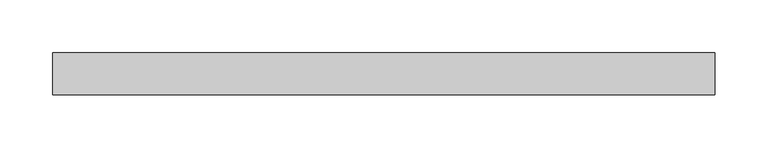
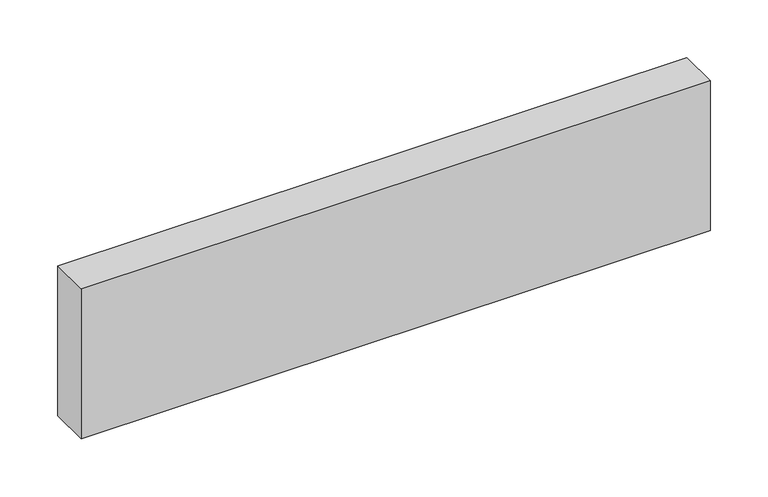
"""IFC4 building model written with IfcOpenShell, lengths in millimetres: plate geometry, Panneau système vide : Epaiss. 4cm."""

import ifcopenshell
import ifcopenshell.guid

model = None  # the IFC model being written
_history = None  # IfcOwnerHistory: only IFC2X3 demands one
_inside = {}  # id of a spatial element -> (the spatial element, [elements in it])
_under = {}  # id of a project, library or spatial element -> (it, [spatial elements below it])
_declared = {}  # id of a project -> (the project, [libraries it declares])
_typed = {}  # id of a type object -> (the type object, [elements of that type])
_made_of = {}  # id of a material, layer set ... -> (it, [elements and type objects made of it])


def new_model(schema):
    """Start an empty IFC model of exactly this schema.

    Asked for "IFC4X3", IfcOpenShell would pick the latest addendum, in which some entities
    have other attributes; the version numbers below select the first issue.
    IFC2X3 requires an IfcOwnerHistory on every rooted entity: one is made here for all.
    """
    global model, _history
    if schema == "IFC4X3":
        model = ifcopenshell.file(schema_version=(4, 3, 0, 0))
    else:
        model = ifcopenshell.file(schema=schema)
    _inside.clear()
    _under.clear()
    _declared.clear()
    _typed.clear()
    _made_of.clear()
    _history = None
    if model.schema == "IFC2X3":
        org = make("IfcOrganization", Name="unknown")
        user = make(
            "IfcPersonAndOrganization",
            ThePerson=make("IfcPerson", FamilyName="unknown"),
            TheOrganization=org,
        )
        app = make(
            "IfcApplication",
            ApplicationDeveloper=org,
            Version="unknown",
            ApplicationFullName="unknown",
            ApplicationIdentifier="unknown",
        )
        _history = make(
            "IfcOwnerHistory",
            OwningUser=user,
            OwningApplication=app,
            ChangeAction="ADDED",
            CreationDate=0,
        )
    return model


def make(cls, **values):
    """One entity of the class cls with the attributes given. An attribute that is None is left unset."""
    return model.create_entity(
        cls, **{name: value for name, value in values.items() if value is not None}
    )


def rooted(cls, **values):
    """An entity with a GlobalId (a new one), such as an element, a storey or a relation."""
    return make(cls, GlobalId=ifcopenshell.guid.new(), OwnerHistory=_history, **values)


def si_unit(unit_type, name, prefix=None):
    """IfcSIUnit, for example si_unit("LENGTHUNIT", "METRE", prefix="MILLI")."""
    return make("IfcSIUnit", UnitType=unit_type, Prefix=prefix, Name=name)


def assignment(units):
    """IfcUnitAssignment: the units of a project."""
    return None if units is None else make("IfcUnitAssignment", Units=units)


def point(xyz):
    """IfcCartesianPoint."""
    return None if xyz is None else make("IfcCartesianPoint", Coordinates=xyz)


def direction(xyz):
    """IfcDirection."""
    return None if xyz is None else make("IfcDirection", DirectionRatios=xyz)


def frame(location, z_axis=None, x_axis=None):
    """IfcAxis2Placement3D, a coordinate frame: its origin and axes. An axis left out is left unset."""
    return make(
        "IfcAxis2Placement3D",
        Location=point(location),
        Axis=direction(z_axis),
        RefDirection=direction(x_axis),
    )


def origin():
    """The frame at (0, 0, 0) with its axes left unset."""
    return frame((0.0, 0.0, 0.0))


def origin_with_axes():
    """The frame at (0, 0, 0) with the z axis (0, 0, 1) and the x axis (1, 0, 0) written out."""
    return frame((0.0, 0.0, 0.0), z_axis=(0.0, 0.0, 1.0), x_axis=(1.0, 0.0, 0.0))


def place(relative_to, where):
    """IfcLocalPlacement: puts the frame where relative to a parent placement (None: the world)."""
    return make(
        "IfcLocalPlacement", PlacementRelTo=relative_to, RelativePlacement=where
    )


def context(
    kind, dimensions, precision=None, world=None, true_north=None, identifier=None
):
    """IfcGeometricRepresentationContext, for example the 3D "Model" context."""
    return make(
        "IfcGeometricRepresentationContext",
        ContextIdentifier=identifier,
        ContextType=kind,
        CoordinateSpaceDimension=dimensions,
        Precision=precision,
        WorldCoordinateSystem=world,
        TrueNorth=true_north,
    )


def project(units=None, contexts=None):
    """IfcProject with its units and contexts."""
    return rooted(
        "IfcProject",
        Name="project",
        RepresentationContexts=contexts,
        UnitsInContext=assignment(units),
    )


def spatial(cls, under=None, at=None, **own):
    """A site, building, storey or space (cls), placed at a placement, below another one or the project."""
    s = rooted(cls, ObjectPlacement=at, **own)
    if under is not None:
        _under.setdefault(under.id(), (under, []))[1].append(s)
    return s


def polyline(points):
    """IfcPolyline through the points."""
    return make("IfcPolyline", Points=[point(p) for p in points])


def outline(outer, holes=None, kind="AREA"):
    """IfcArbitraryClosedProfileDef: a profile drawn as a closed curve; with holes, ...WithVoids."""
    if holes is None:
        return make("IfcArbitraryClosedProfileDef", ProfileType=kind, OuterCurve=outer)
    return make(
        "IfcArbitraryProfileDefWithVoids",
        ProfileType=kind,
        OuterCurve=outer,
        InnerCurves=holes,
    )


def extrude(swept, where, along, depth):
    """IfcExtrudedAreaSolid: the profile swept, set in the frame where, extruded along a direction by depth."""
    return make(
        "IfcExtrudedAreaSolid",
        SweptArea=swept,
        Position=where,
        ExtrudedDirection=direction(along),
        Depth=depth,
    )


def shape(context_of_items, identifier, shape_type, items):
    """IfcShapeRepresentation: the items that make up one representation, for example the "Body"."""
    return make(
        "IfcShapeRepresentation",
        ContextOfItems=context_of_items,
        RepresentationIdentifier=identifier,
        RepresentationType=shape_type,
        Items=items,
    )


def source(mapping_origin, context_of_items, identifier, shape_type, items):
    """IfcRepresentationMap: a shape defined once, which mapped items show again and again."""
    return make(
        "IfcRepresentationMap",
        MappingOrigin=mapping_origin,
        MappedRepresentation=shape(context_of_items, identifier, shape_type, items),
    )


def transform(
    local_origin,
    x_axis=None,
    y_axis=None,
    z_axis=None,
    scale=None,
    scale2=None,
    scale3=None,
    uniform=True,
):
    """IfcCartesianTransformationOperator3D, or its non-uniform kind. x_axis, y_axis, z_axis: its Axis1, 2, 3."""
    if uniform:
        return make(
            "IfcCartesianTransformationOperator3D",
            Axis1=direction(x_axis),
            Axis2=direction(y_axis),
            LocalOrigin=point(local_origin),
            Scale=scale,
            Axis3=direction(z_axis),
        )
    return make(
        "IfcCartesianTransformationOperator3DnonUniform",
        Axis1=direction(x_axis),
        Axis2=direction(y_axis),
        LocalOrigin=point(local_origin),
        Scale=scale,
        Axis3=direction(z_axis),
        Scale2=scale2,
        Scale3=scale3,
    )


def mapped(mapping_source, mapping_target):
    """IfcMappedItem: shows the shape of a source again, moved by a transform."""
    return make(
        "IfcMappedItem", MappingSource=mapping_source, MappingTarget=mapping_target
    )


def made_of(thing, what):
    """Note that an element or type object is made of a material, layer set ...; save() writes the relation."""
    if what is not None:
        _made_of.setdefault(what.id(), (what, []))[1].append(thing)
    return thing


def element(
    cls,
    number,
    at=None,
    inside=None,
    cuts=None,
    type_object=None,
    material=None,
    context=None,
    identifier="Body",
    shape_type=None,
    held_by="IfcProductDefinitionShape",
    body=None,
    shapes=None,
    **own,
):
    """One element of the class cls, such as IfcWall. Its Tag is "e" and its number.

    at: its placement. inside: the storey or other place that contains it. cuts: it is an
    opening in that element (IfcRelVoidsElement). A single representation is given by context,
    identifier, shape_type and body (its items); several are given by shapes. held_by: the class
    of the entity that holds the representations. save() writes the other relations.
    """
    e = rooted(cls, Tag="e%d" % number, ObjectPlacement=at, **own)
    if body is not None:
        shapes = [shape(context, identifier, shape_type, body)]
    if shapes is not None:
        e.Representation = make(held_by, Representations=shapes)
    if inside is not None:
        _inside.setdefault(inside.id(), (inside, []))[1].append(e)
    if cuts is not None:
        rooted(
            "IfcRelVoidsElement", RelatingBuildingElement=cuts, RelatedOpeningElement=e
        )
    if type_object is not None:
        _typed.setdefault(type_object.id(), (type_object, []))[1].append(e)
    return made_of(e, material)


def aggregate(whole, parts):
    """IfcRelAggregates: a whole, such as a stair, and the parts it consists of."""
    return rooted("IfcRelAggregates", RelatingObject=whole, RelatedObjects=parts)


def save(model, path):
    """Write the relations noted so far, then the file.

    IfcRelAggregates (storeys below a building ...), IfcRelContainedInSpatialStructure (elements
    in a storey), IfcRelDefinesByType, IfcRelAssociatesMaterial and IfcRelDeclares: one each for
    every whole, place, type object, material and project.
    """
    for whole, parts in _under.values():
        aggregate(whole, parts)
    for where, things in _inside.values():
        rooted(
            "IfcRelContainedInSpatialStructure",
            RelatedElements=things,
            RelatingStructure=where,
        )
    for kind, things in _typed.values():
        rooted("IfcRelDefinesByType", RelatedObjects=things, RelatingType=kind)
    for what, things in _made_of.values():
        rooted("IfcRelAssociatesMaterial", RelatedObjects=things, RelatingMaterial=what)
    for by, libraries in _declared.values():
        rooted("IfcRelDeclares", RelatingContext=by, RelatedDefinitions=libraries)
    model.write(path)


def plate_54ec1492(model_context):
    return source(origin(), model_context, "Body", "SweptSolid", [
        extrude(outline(polyline([(313.8255909, -20.0), (-313.8255909, -20.0), (-313.8255909, 20.0), (313.8255909, 20.0), (313.8255909, -20.0)])), origin_with_axes(), (0.0, 0.0, 1.0), 158.3333333),
    ])


if __name__ == "__main__":
    model = new_model("IFC4")
    model_context = context("Model", 3, world=origin())
    ifc_project = project(units=[si_unit("LENGTHUNIT", "METRE", prefix="MILLI")], contexts=[model_context])
    site = spatial("IfcSite", under=ifc_project)
    building = spatial("IfcBuilding", under=site)
    placement = place(None, origin())
    plate_shape = plate_54ec1492(model_context)
    element("IfcPlate", 1, ObjectType="Panneau système vide : Epaiss. 4cm", at=placement, inside=building, context=model_context, shape_type="MappedRepresentation", body=[
        mapped(plate_shape, transform((0.0, 0.0, 0.0), x_axis=(1.0, 0.0, 0.0), y_axis=(0.0, 1.0, 0.0), z_axis=(0.0, 0.0, 1.0))),
    ])
    save(model, "model.ifc")
